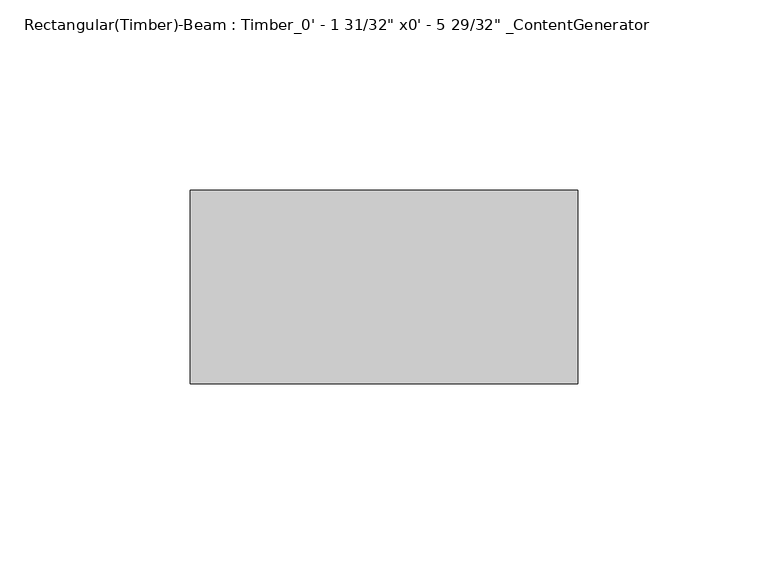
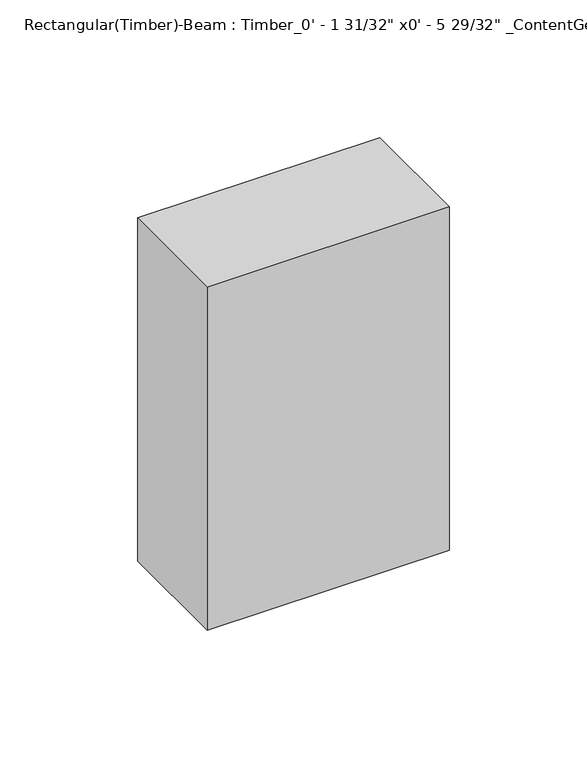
"""IFC4 building model written with IfcOpenShell, lengths in millimetres: beam geometry."""

import ifcopenshell
import ifcopenshell.guid

model = None  # the IFC model being written
_history = None  # IfcOwnerHistory: only IFC2X3 demands one
_inside = {}  # id of a spatial element -> (the spatial element, [elements in it])
_under = {}  # id of a project, library or spatial element -> (it, [spatial elements below it])
_declared = {}  # id of a project -> (the project, [libraries it declares])
_typed = {}  # id of a type object -> (the type object, [elements of that type])
_made_of = {}  # id of a material, layer set ... -> (it, [elements and type objects made of it])


def new_model(schema):
    """Start an empty IFC model of exactly this schema.

    Asked for "IFC4X3", IfcOpenShell would pick the latest addendum, in which some entities
    have other attributes; the version numbers below select the first issue.
    IFC2X3 requires an IfcOwnerHistory on every rooted entity: one is made here for all.
    """
    global model, _history
    if schema == "IFC4X3":
        model = ifcopenshell.file(schema_version=(4, 3, 0, 0))
    else:
        model = ifcopenshell.file(schema=schema)
    _inside.clear()
    _under.clear()
    _declared.clear()
    _typed.clear()
    _made_of.clear()
    _history = None
    if model.schema == "IFC2X3":
        org = make("IfcOrganization", Name="unknown")
        user = make(
            "IfcPersonAndOrganization",
            ThePerson=make("IfcPerson", FamilyName="unknown"),
            TheOrganization=org,
        )
        app = make(
            "IfcApplication",
            ApplicationDeveloper=org,
            Version="unknown",
            ApplicationFullName="unknown",
            ApplicationIdentifier="unknown",
        )
        _history = make(
            "IfcOwnerHistory",
            OwningUser=user,
            OwningApplication=app,
            ChangeAction="ADDED",
            CreationDate=0,
        )
    return model


def make(cls, **values):
    """One entity of the class cls with the attributes given. An attribute that is None is left unset."""
    return model.create_entity(
        cls, **{name: value for name, value in values.items() if value is not None}
    )


def rooted(cls, **values):
    """An entity with a GlobalId (a new one), such as an element, a storey or a relation."""
    return make(cls, GlobalId=ifcopenshell.guid.new(), OwnerHistory=_history, **values)


def si_unit(unit_type, name, prefix=None):
    """IfcSIUnit, for example si_unit("LENGTHUNIT", "METRE", prefix="MILLI")."""
    return make("IfcSIUnit", UnitType=unit_type, Prefix=prefix, Name=name)


def assignment(units):
    """IfcUnitAssignment: the units of a project."""
    return None if units is None else make("IfcUnitAssignment", Units=units)


def point(xyz):
    """IfcCartesianPoint."""
    return None if xyz is None else make("IfcCartesianPoint", Coordinates=xyz)


def direction(xyz):
    """IfcDirection."""
    return None if xyz is None else make("IfcDirection", DirectionRatios=xyz)


def frame(location, z_axis=None, x_axis=None):
    """IfcAxis2Placement3D, a coordinate frame: its origin and axes. An axis left out is left unset."""
    return make(
        "IfcAxis2Placement3D",
        Location=point(location),
        Axis=direction(z_axis),
        RefDirection=direction(x_axis),
    )


def origin():
    """The frame at (0, 0, 0) with its axes left unset."""
    return frame((0.0, 0.0, 0.0))


def place(relative_to, where):
    """IfcLocalPlacement: puts the frame where relative to a parent placement (None: the world)."""
    return make(
        "IfcLocalPlacement", PlacementRelTo=relative_to, RelativePlacement=where
    )


def context(
    kind, dimensions, precision=None, world=None, true_north=None, identifier=None
):
    """IfcGeometricRepresentationContext, for example the 3D "Model" context."""
    return make(
        "IfcGeometricRepresentationContext",
        ContextIdentifier=identifier,
        ContextType=kind,
        CoordinateSpaceDimension=dimensions,
        Precision=precision,
        WorldCoordinateSystem=world,
        TrueNorth=true_north,
    )


def project(units=None, contexts=None):
    """IfcProject with its units and contexts."""
    return rooted(
        "IfcProject",
        Name="project",
        RepresentationContexts=contexts,
        UnitsInContext=assignment(units),
    )


def spatial(cls, under=None, at=None, **own):
    """A site, building, storey or space (cls), placed at a placement, below another one or the project."""
    s = rooted(cls, ObjectPlacement=at, **own)
    if under is not None:
        _under.setdefault(under.id(), (under, []))[1].append(s)
    return s


def polyline(points):
    """IfcPolyline through the points."""
    return make("IfcPolyline", Points=[point(p) for p in points])


def outline(outer, holes=None, kind="AREA"):
    """IfcArbitraryClosedProfileDef: a profile drawn as a closed curve; with holes, ...WithVoids."""
    if holes is None:
        return make("IfcArbitraryClosedProfileDef", ProfileType=kind, OuterCurve=outer)
    return make(
        "IfcArbitraryProfileDefWithVoids",
        ProfileType=kind,
        OuterCurve=outer,
        InnerCurves=holes,
    )


def extrude(swept, where, along, depth):
    """IfcExtrudedAreaSolid: the profile swept, set in the frame where, extruded along a direction by depth."""
    return make(
        "IfcExtrudedAreaSolid",
        SweptArea=swept,
        Position=where,
        ExtrudedDirection=direction(along),
        Depth=depth,
    )


def shape(context_of_items, identifier, shape_type, items):
    """IfcShapeRepresentation: the items that make up one representation, for example the "Body"."""
    return make(
        "IfcShapeRepresentation",
        ContextOfItems=context_of_items,
        RepresentationIdentifier=identifier,
        RepresentationType=shape_type,
        Items=items,
    )


def source(mapping_origin, context_of_items, identifier, shape_type, items):
    """IfcRepresentationMap: a shape defined once, which mapped items show again and again."""
    return make(
        "IfcRepresentationMap",
        MappingOrigin=mapping_origin,
        MappedRepresentation=shape(context_of_items, identifier, shape_type, items),
    )


def transform(
    local_origin,
    x_axis=None,
    y_axis=None,
    z_axis=None,
    scale=None,
    scale2=None,
    scale3=None,
    uniform=True,
):
    """IfcCartesianTransformationOperator3D, or its non-uniform kind. x_axis, y_axis, z_axis: its Axis1, 2, 3."""
    if uniform:
        return make(
            "IfcCartesianTransformationOperator3D",
            Axis1=direction(x_axis),
            Axis2=direction(y_axis),
            LocalOrigin=point(local_origin),
            Scale=scale,
            Axis3=direction(z_axis),
        )
    return make(
        "IfcCartesianTransformationOperator3DnonUniform",
        Axis1=direction(x_axis),
        Axis2=direction(y_axis),
        LocalOrigin=point(local_origin),
        Scale=scale,
        Axis3=direction(z_axis),
        Scale2=scale2,
        Scale3=scale3,
    )


def mapped(mapping_source, mapping_target):
    """IfcMappedItem: shows the shape of a source again, moved by a transform."""
    return make(
        "IfcMappedItem", MappingSource=mapping_source, MappingTarget=mapping_target
    )


def made_of(thing, what):
    """Note that an element or type object is made of a material, layer set ...; save() writes the relation."""
    if what is not None:
        _made_of.setdefault(what.id(), (what, []))[1].append(thing)
    return thing


def element(
    cls,
    number,
    at=None,
    inside=None,
    cuts=None,
    type_object=None,
    material=None,
    context=None,
    identifier="Body",
    shape_type=None,
    held_by="IfcProductDefinitionShape",
    body=None,
    shapes=None,
    **own,
):
    """One element of the class cls, such as IfcWall. Its Tag is "e" and its number.

    at: its placement. inside: the storey or other place that contains it. cuts: it is an
    opening in that element (IfcRelVoidsElement). A single representation is given by context,
    identifier, shape_type and body (its items); several are given by shapes. held_by: the class
    of the entity that holds the representations. save() writes the other relations.
    """
    e = rooted(cls, Tag="e%d" % number, ObjectPlacement=at, **own)
    if body is not None:
        shapes = [shape(context, identifier, shape_type, body)]
    if shapes is not None:
        e.Representation = make(held_by, Representations=shapes)
    if inside is not None:
        _inside.setdefault(inside.id(), (inside, []))[1].append(e)
    if cuts is not None:
        rooted(
            "IfcRelVoidsElement", RelatingBuildingElement=cuts, RelatedOpeningElement=e
        )
    if type_object is not None:
        _typed.setdefault(type_object.id(), (type_object, []))[1].append(e)
    return made_of(e, material)


def aggregate(whole, parts):
    """IfcRelAggregates: a whole, such as a stair, and the parts it consists of."""
    return rooted("IfcRelAggregates", RelatingObject=whole, RelatedObjects=parts)


def save(model, path):
    """Write the relations noted so far, then the file.

    IfcRelAggregates (storeys below a building ...), IfcRelContainedInSpatialStructure (elements
    in a storey), IfcRelDefinesByType, IfcRelAssociatesMaterial and IfcRelDeclares: one each for
    every whole, place, type object, material and project.
    """
    for whole, parts in _under.values():
        aggregate(whole, parts)
    for where, things in _inside.values():
        rooted(
            "IfcRelContainedInSpatialStructure",
            RelatedElements=things,
            RelatingStructure=where,
        )
    for kind, things in _typed.values():
        rooted("IfcRelDefinesByType", RelatedObjects=things, RelatingType=kind)
    for what, things in _made_of.values():
        rooted("IfcRelAssociatesMaterial", RelatedObjects=things, RelatingMaterial=what)
    for by, libraries in _declared.values():
        rooted("IfcRelDeclares", RelatingContext=by, RelatedDefinitions=libraries)
    model.write(path)


def beam_ed9dd588(model_context):
    return source(origin(), model_context, "Body", "SweptSolid", [
        extrude(outline(polyline([(38.105, 25.4), (38.105, -25.4), (-63.5049994, -25.4), (-63.5049994, 25.4), (38.105, 25.4)])), frame((0.0, 0.0, -76.2), z_axis=(0.0, 0.0, 1.0), x_axis=(1.0, 0.0, 0.0)), (0.0, 0.0, 1.0), 152.4),
    ])


if __name__ == "__main__":
    model = new_model("IFC4")
    model_context = context("Model", 3, world=origin())
    ifc_project = project(units=[si_unit("LENGTHUNIT", "METRE", prefix="MILLI")], contexts=[model_context])
    site = spatial("IfcSite", under=ifc_project)
    building = spatial("IfcBuilding", under=site)
    placement = place(None, origin())
    beam_shape = beam_ed9dd588(model_context)
    element("IfcBeam", 1, ObjectType="Rectangular(Timber)-Beam : Timber_0' - 1 31/32\" x0' - 5 29/32\" _ContentGenerator", at=placement, inside=building, context=model_context, shape_type="MappedRepresentation", body=[
        mapped(beam_shape, transform((0.0, 0.0, 0.0), x_axis=(1.0, 0.0, 0.0), y_axis=(0.0, 1.0, 0.0), z_axis=(0.0, 0.0, 1.0))),
    ])
    save(model, "model.ifc")
